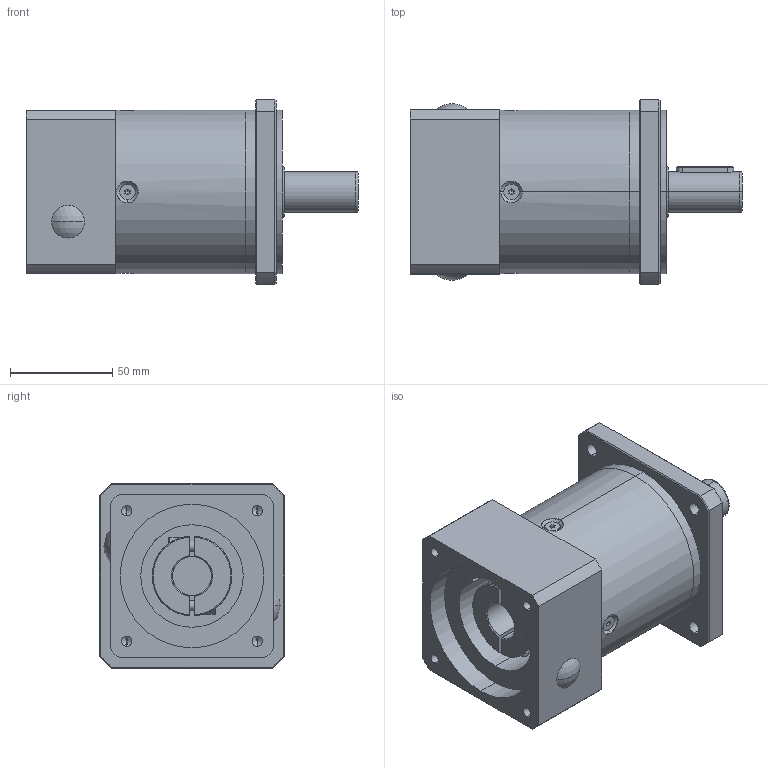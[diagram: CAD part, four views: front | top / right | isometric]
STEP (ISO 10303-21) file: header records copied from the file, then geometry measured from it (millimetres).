
FILE_DESCRIPTION (( 'STEP AP214' ), '1' );
FILE_NAME ('PF80L2-70-19-40-M6-90.STEP', '2023-03-17T03:02:52', ( 'PC' ), ( 'Microsoft' ), 'SwSTEP 2.0', 'SolidWorks 2016', '' );
FILE_SCHEMA (( 'AUTOMOTIVE_DESIGN' ));
Length unit declared in the file: millimetre
Products named in the file (8): hexagon socket head cap screws gb_GB_FASTENER_SCREWS_HSHCS M5X16-N; PF80黑裔; hexagon socket countersunk head screws gb_GB_FASTENER_SCREWS_HSCHS M4X12-N; PF80薊粣ん-俋倛19; PF80输入端盖-外形70-M6-90; PF80二级齿圈-外形; PF80怀堤傷裔-俋倛; PF80L2-70-19-40-M6-90
Assembly tree (12 placements, depth 2):
  PF80L2-70-19-40-M6-90
    PF80怀堤傷裔-俋倛
    PF80二级齿圈-外形
    PF80输入端盖-外形70-M6-90
    PF80薊粣ん-俋倛19
    hexagon socket countersunk head screws gb_GB_FASTENER_SCREWS_HSCHS M4X12-N  x4
    PF80黑裔  x2
    hexagon socket head cap screws gb_GB_FASTENER_SCREWS_HSHCS M5X16-N  x2
Bounding box: 162 x 90 x 90 mm (x, y, z)
Volume: 462038.4 mm3; surface area: 102772.8 mm2
Topology: 13 solids, 13 shells, 379 faces, 888 edges, 537 vertices
Faces by surface type: plane 148, cylinder 130, cone 71, torus 18, sphere 12
Entity records: 9041 total; most frequent: CARTESIAN_POINT 2285, DIRECTION 1331, ORIENTED_EDGE 1194, EDGE_CURVE 597, AXIS2_PLACEMENT_3D 530, VERTEX_POINT 374, EDGE_LOOP 305, VECTOR 271
